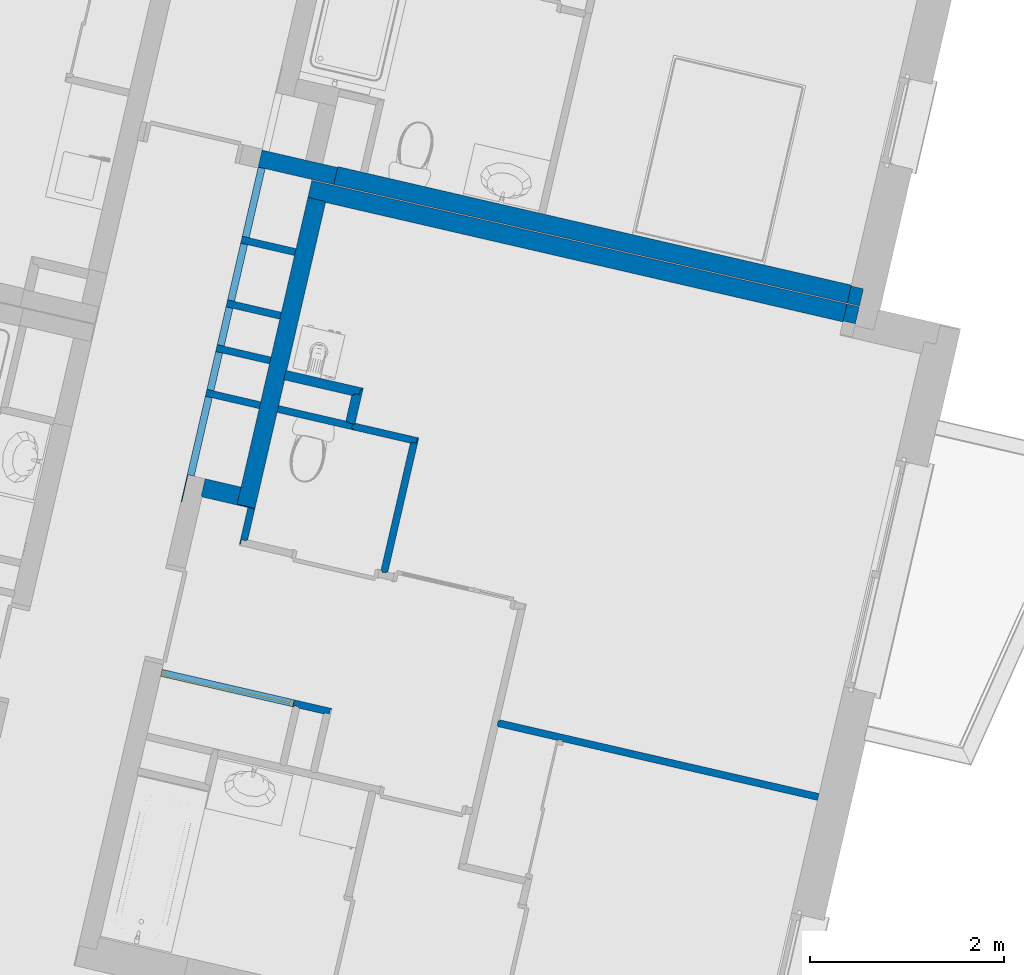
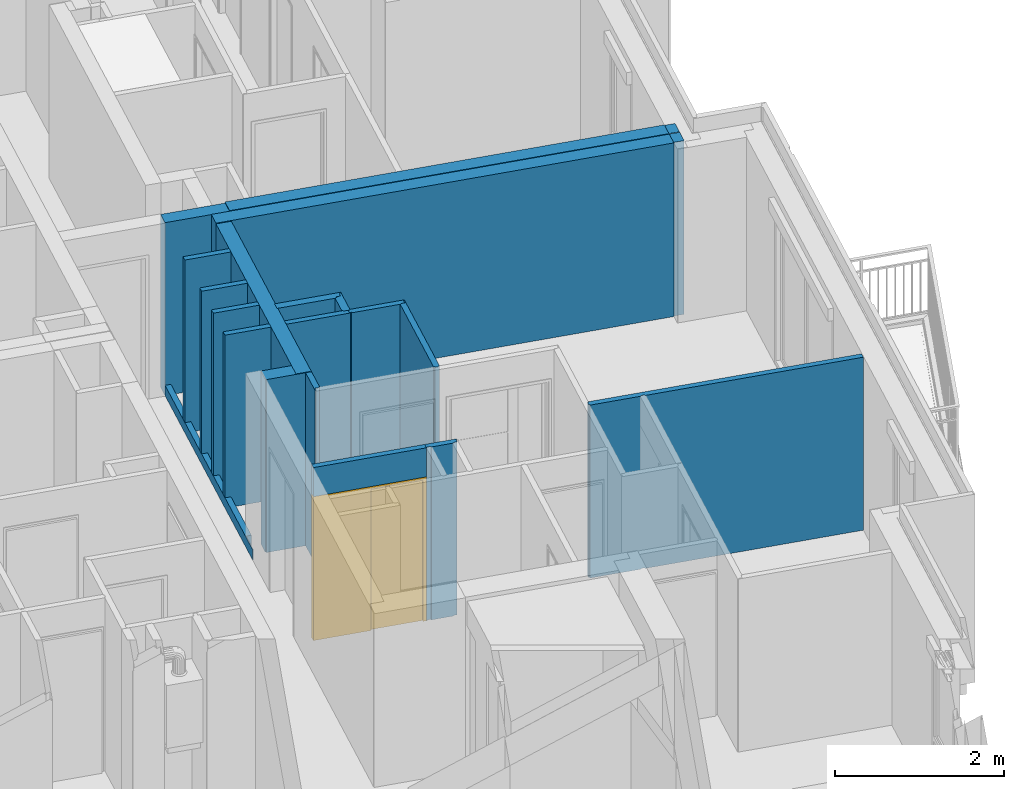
# One storey, part 45 of 91: 21 walls, 1 door, 1 opening.
"""IFC2X3 building model written with IfcOpenShell, lengths in metres."""

from ifc_helpers import new_model, entity, si_unit, converted_unit, derived_unit, money_unit, direction, frame, origin_with_axes, place, context, subcontext, project, spatial, faceted_brep, material, material_list, type_object, element, fill, save


model = new_model("IFC2X3")

# Units and contexts
model_context = context("Model", 3, precision=1e-05, world=origin_with_axes(), true_north=direction((0.0, 1.0)))
body_context = subcontext(model_context, "Body", "Model", "MODEL_VIEW")
ifc_project = project(units=[si_unit("LENGTHUNIT", "METRE"), si_unit("AREAUNIT", "SQUARE_METRE"), si_unit("VOLUMEUNIT", "CUBIC_METRE"), converted_unit("PLANEANGLEUNIT", "DEGREE", entity("IfcPlaneAngleMeasure", 0.0174532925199), si_unit("PLANEANGLEUNIT", "RADIAN"), dimensions=[0, 0, 0, 0, 0, 0, 0]), si_unit("SOLIDANGLEUNIT", "STERADIAN"), money_unit("EUR"), converted_unit("TIMEUNIT", "Year", entity("IfcTimeMeasure", 31556926.0), si_unit("TIMEUNIT", "SECOND"), dimensions=[0, 0, 1, 0, 0, 0, 0]), si_unit("MASSUNIT", "GRAM", prefix="KILO"), si_unit("THERMODYNAMICTEMPERATUREUNIT", "DEGREE_CELSIUS"), si_unit("LUMINOUSINTENSITYUNIT", "LUMEN"), si_unit("ENERGYUNIT", "JOULE", prefix="MEGA"), derived_unit("THERMALCONDUCTANCEUNIT", [(si_unit("POWERUNIT", "WATT"), 1), (si_unit("LENGTHUNIT", "METRE"), -1), (si_unit("THERMODYNAMICTEMPERATUREUNIT", "KELVIN"), -1)]), derived_unit("SPECIFICHEATCAPACITYUNIT", [(si_unit("ENERGYUNIT", "JOULE"), 1), (si_unit("MASSUNIT", "GRAM", prefix="KILO"), -1), (si_unit("THERMODYNAMICTEMPERATUREUNIT", "KELVIN"), -1)]), derived_unit("MASSDENSITYUNIT", [(si_unit("MASSUNIT", "GRAM", prefix="KILO"), 1), (si_unit("VOLUMEUNIT", "CUBIC_METRE"), -1)])], contexts=[model_context])

# Site, building, storey
site_placement = place(None, origin_with_axes())
site = spatial("IfcSite", under=ifc_project, at=site_placement, Name="Site", CompositionType="ELEMENT")
building_placement = place(site_placement, origin_with_axes())
building = spatial("IfcBuilding", under=site, at=building_placement, Name="Bâtiment", CompositionType="ELEMENT")
storey_placement = place(building_placement, frame((0.0, 0.0, 5.44), z_axis=(0.0, 0.0, 1.0), x_axis=(1.0, 0.0, 0.0)))
storey = spatial("IfcBuildingStorey", under=building, at=storey_placement, Name="R+2", CompositionType="ELEMENT", Elevation=5.44)

# Walls
ifc_material_1 = material(Name="Cloison - Carreaux de plâtre")
wall_type_1 = type_object("IfcWallType", Name="Cloison - Carreaux de plâtre 74", PredefinedType="USERDEFINED")
wall_1_placement = place(storey_placement, frame((-9.20392746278, 0.883172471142, 0.0), z_axis=(0.0, 0.0, 1.0), x_axis=(0.224876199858, 0.974387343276, 0.0)))
element("IfcWall", 1, at=wall_1_placement, inside=storey, type_object=wall_type_1, material=ifc_material_1, Name="Carreaux de plâtre 8cm", ObjectType="PARTITIONING", context=body_context, shape_type="Brep", body=[
    faceted_brep([(3.25805722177, 0.0, 0.15), (-0.29, 0.0, 0.15), (-0.29, -0.00999999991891, 0.15), (0.0, -0.00999999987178, 0.15), (0.0, -0.074, 0.15), (3.25805722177, -0.074, 0.15), (3.25805722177, 0.0, 0.0), (-0.29, 0.0, 0.0), (-0.29, -0.00999999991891, 0.0), (0.0, -0.00999999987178, 0.0), (0.0, -0.074, 0.0), (3.25805722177, -0.074, 0.0)], [[[0, 1, 2, 3, 4, 5]], [[0, 6, 7, 1]], [[1, 7, 8, 2]], [[8, 9, 3, 2]], [[3, 9, 10, 4]], [[11, 5, 4, 10]], [[5, 11, 6, 0]], [[11, 10, 9, 8, 7, 6]]]),
])
wall_2_placement = place(storey_placement, frame((-8.78745674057, 2.6877378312, 0.0), z_axis=(0.0, 0.0, 1.0), x_axis=(0.974387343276, -0.224876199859, 0.0)))
element("IfcWall", 2, at=wall_2_placement, inside=storey, type_object=wall_type_1, material=ifc_material_1, Name="Carreaux de plâtre 8cm", ObjectType="PARTITIONING", context=body_context, shape_type="Brep", body=[
    faceted_brep([(0.570000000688, 0.0, 0.0), (0.0739999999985, 0.0, 0.0), (0.0739999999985, 0.0, 0.15), (0.0, 0.0, 0.15), (0.0, 0.0, 2.5), (0.570000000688, 0.0, 2.5), (0.570000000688, -0.074, 0.0), (0.0739999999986, -0.074, 0.0), (0.0739999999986, -0.074, 0.15), (0.0, -0.074, 0.15), (0.0, -0.074, 2.5), (0.570000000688, -0.074, 2.5)], [[[0, 1, 2, 3, 4, 5]], [[0, 6, 7, 1]], [[7, 8, 2, 1]], [[8, 9, 3, 2]], [[10, 4, 3, 9]], [[10, 11, 5, 4]], [[11, 6, 0, 5]], [[10, 9, 8, 7, 6, 11]]]),
])
wall_3_placement = place(storey_placement, frame((-8.63589018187, 3.34447490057, 0.0), z_axis=(0.0, 0.0, 1.0), x_axis=(0.974387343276, -0.224876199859, 0.0)))
element("IfcWall", 3, at=wall_3_placement, inside=storey, type_object=wall_type_1, material=ifc_material_1, Name="Carreaux de plâtre 8cm", ObjectType="PARTITIONING", context=body_context, shape_type="Brep", body=[
    faceted_brep([(0.570000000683, 0.0, 0.0), (0.0739999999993, 0.0, 0.0), (0.0739999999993, 0.0, 0.15), (0.0, 0.0, 0.15), (0.0, 0.0, 2.5), (0.570000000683, 0.0, 2.5), (0.570000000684, -0.074, 0.0), (0.0739999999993, -0.074, 0.0), (0.0739999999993, -0.074, 0.15), (0.0, -0.074, 0.15), (0.0, -0.074, 2.5), (0.570000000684, -0.074, 2.5)], [[[0, 1, 2, 3, 4, 5]], [[0, 6, 7, 1]], [[7, 8, 2, 1]], [[8, 9, 3, 2]], [[10, 4, 3, 9]], [[10, 11, 5, 4]], [[11, 6, 0, 5]], [[10, 9, 8, 7, 6, 11]]]),
])
wall_4_placement = place(storey_placement, frame((-9.00063937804, 1.76401862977, 0.0), z_axis=(0.0, 0.0, 1.0), x_axis=(0.974387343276, -0.224876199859, 0.0)))
element("IfcWall", 4, at=wall_4_placement, inside=storey, type_object=wall_type_1, material=ifc_material_1, Name="Carreaux de plâtre 8cm", ObjectType="PARTITIONING", context=body_context, shape_type="Brep", body=[
    faceted_brep([(0.570000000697, 0.0, 0.0), (0.0740000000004, 0.0, 0.0), (0.0740000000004, 0.0, 0.15), (0.0, 0.0, 0.15), (0.0, 0.0, 2.5), (0.570000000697, 0.0, 2.5), (0.570000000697, -0.074, 0.0), (0.0740000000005, -0.074, 0.0), (0.0740000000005, -0.074, 0.15), (0.0, -0.074, 0.15), (0.0, -0.074, 2.5), (0.570000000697, -0.074, 2.5)], [[[0, 1, 2, 3, 4, 5]], [[0, 6, 7, 1]], [[7, 8, 2, 1]], [[8, 9, 3, 2]], [[10, 4, 3, 9]], [[10, 11, 5, 4]], [[11, 6, 0, 5]], [[10, 9, 8, 7, 6, 11]]]),
])
wall_5_placement = place(storey_placement, frame((-8.89404805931, 2.22587823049, 0.0), z_axis=(0.0, 0.0, 1.0), x_axis=(0.974387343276, -0.224876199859, 0.0)))
element("IfcWall", 5, at=wall_5_placement, inside=storey, type_object=wall_type_1, material=ifc_material_1, Name="Carreaux de plâtre 8cm", ObjectType="PARTITIONING", context=body_context, shape_type="Brep", body=[
    faceted_brep([(0.570000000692, 0.0, 0.0), (0.0739999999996, 0.0, 0.0), (0.0739999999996, 0.0, 0.15), (0.0, 0.0, 0.15), (0.0, 0.0, 2.5), (0.570000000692, 0.0, 2.5), (0.570000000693, -0.074, 0.0), (0.0739999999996, -0.074, 0.0), (0.0739999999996, -0.074, 0.15), (0.0, -0.074, 0.15), (0.0, -0.074, 2.5), (0.570000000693, -0.074, 2.5)], [[[0, 1, 2, 3, 4, 5]], [[0, 6, 7, 1]], [[7, 8, 2, 1]], [[8, 9, 3, 2]], [[10, 4, 3, 9]], [[10, 11, 5, 4]], [[11, 6, 0, 5]], [[10, 9, 8, 7, 6, 11]]]),
])
ifc_material_2 = material(Name="Finition int - Plaque de plâtre")
ifc_material_3 = material(Name="Isolation - Laine de roche")
ifc_material_list_1 = material_list([ifc_material_2, ifc_material_3, ifc_material_2])
wall_type_2 = type_object("IfcWallType", Name="3 - Cloison 72mm Placostil 74", PredefinedType="USERDEFINED")
wall_6_placement = place(storey_placement, frame((-7.71045196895, -1.53049506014, 0.0), z_axis=(0.0, 0.0, 1.0), x_axis=(-0.974387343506, 0.224876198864, 0.0)))
element("IfcWall", 6, at=wall_6_placement, inside=storey, type_object=wall_type_2, material=ifc_material_list_1, Name="Cloison Placostil 72/48", ObjectType="PARTITIONING", context=body_context, shape_type="Brep", body=[
    faceted_brep([(0.385000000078, 0.074, 0.0), (0.397999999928, 0.074, 0.0), (0.397999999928, 0.061, 0.0), (0.385000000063, 0.061, 0.0), (0.385000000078, 0.074, 2.5), (0.397999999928, 0.074, 2.5), (0.397999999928, 0.061, 2.5), (0.385000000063, 0.061, 2.5)], [[[0, 1, 2, 3]], [[4, 5, 1, 0]], [[2, 1, 5, 6]], [[3, 2, 6, 7]], [[4, 0, 3, 7]], [[7, 6, 5, 4]]]),
    faceted_brep([(0.337000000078, 0.074, 0.0), (0.337000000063, 0.061, 0.0), (0.061000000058, 0.061, 0.0), (0.0610000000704, 0.074, 0.0), (0.337000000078, 0.074, 2.5), (0.337000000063, 0.061, 2.5), (0.061000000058, 0.061, 2.5), (0.0610000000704, 0.074, 2.5)], [[[0, 1, 2, 3]], [[1, 0, 4, 5]], [[1, 5, 6, 2]], [[7, 3, 2, 6]], [[4, 0, 3, 7]], [[5, 4, 7, 6]]]),
    faceted_brep([(0.013000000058, 0.061, 0.0), (0.397999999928, 0.061, 0.0), (0.397999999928, 0.013, 0.0), (0.0130000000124, 0.013, 0.0), (0.013000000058, 0.061, 2.5), (0.397999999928, 0.061, 2.5), (0.397999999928, 0.013, 2.5), (0.0130000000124, 0.013, 2.5)], [[[0, 1, 2, 3]], [[4, 5, 1, 0]], [[2, 1, 5, 6]], [[3, 2, 6, 7]], [[4, 0, 3, 7]], [[7, 6, 5, 4]]]),
    faceted_brep([(0.0, 0.013, 0.0), (0.397999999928, 0.013, 0.0), (0.397999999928, 0.0, 0.0), (0.0, 0.0, 0.0), (0.0, 0.013, 2.5), (0.397999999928, 0.013, 2.5), (0.397999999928, 0.0, 2.5), (0.0, 0.0, 2.5)], [[[0, 1, 2, 3]], [[4, 5, 1, 0]], [[2, 1, 5, 6]], [[3, 2, 6, 7]], [[4, 0, 3, 7]], [[7, 6, 5, 4]]]),
])
wall_7_placement = place(storey_placement, frame((-6.81321467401, 1.26329398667, 0.0), z_axis=(0.0, 0.0, 1.0), x_axis=(-0.974387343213, 0.224876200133, 0.0)))
element("IfcWall", 7, at=wall_7_placement, inside=storey, type_object=wall_type_2, material=ifc_material_list_1, Name="Cloison Placostil 72/48", ObjectType="PARTITIONING", context=body_context, shape_type="Brep", body=[
    faceted_brep([(0.0609999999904, 0.061, 0.0), (0.673999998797, 0.061, 0.0), (0.673999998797, 0.061, 2.5), (0.0609999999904, 0.061, 2.5), (0.0609999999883, 0.074, 0.0), (0.673999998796, 0.074, 0.0), (0.673999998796, 0.074, 2.5), (0.0609999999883, 0.074, 2.5)], [[[0, 1, 2, 3]], [[4, 5, 1, 0]], [[5, 6, 2, 1]], [[3, 2, 6, 7]], [[7, 4, 0, 3]], [[7, 6, 5, 4]]]),
    faceted_brep([(0.012999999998, 0.013, 0.0), (0.699999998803, 0.013, 0.0), (0.699999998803, 0.013, 2.5), (0.012999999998, 0.013, 2.5), (0.0129999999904, 0.061, 0.0), (0.699999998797, 0.061, 0.0), (0.699999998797, 0.061, 2.5), (0.0129999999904, 0.061, 2.5)], [[[0, 1, 2, 3]], [[4, 5, 1, 0]], [[5, 6, 2, 1]], [[3, 2, 6, 7]], [[7, 4, 0, 3]], [[7, 6, 5, 4]]]),
    faceted_brep([(0.0, 0.0, 0.0), (0.673999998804, 0.0, 0.0), (0.673999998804, 0.0, 2.5), (0.0, 0.0, 2.5), (0.0, 0.013, 0.0), (0.673999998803, 0.013, 0.0), (0.673999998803, 0.013, 2.5), (0.0, 0.013, 2.5)], [[[0, 1, 2, 3]], [[4, 5, 1, 0]], [[5, 6, 2, 1]], [[3, 2, 6, 7]], [[7, 4, 0, 3]], [[7, 6, 5, 4]]]),
])
wall_8_placement = place(storey_placement, frame((-7.1500792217, -0.196338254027, 0.0), z_axis=(0.0, 0.0, 1.0), x_axis=(0.224876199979, 0.974387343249, 0.0)))
element("IfcWall", 8, at=wall_8_placement, inside=storey, type_object=wall_type_2, material=ifc_material_list_1, Name="Cloison Placostil 72/48", ObjectType="PARTITIONING", context=body_context, shape_type="Brep", body=[
    faceted_brep([(1.42400000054, 0.074, 0.0), (1.42400000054, 0.061, 0.0), (0.0740000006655, 0.061, 0.0), (0.0740000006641, 0.074, 0.0), (1.42400000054, 0.074, 2.5), (1.42400000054, 0.061, 2.5), (0.0740000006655, 0.061, 2.5), (0.0740000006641, 0.074, 2.5)], [[[0, 1, 2, 3]], [[1, 0, 4, 5]], [[1, 5, 6, 2]], [[7, 3, 2, 6]], [[4, 0, 3, 7]], [[5, 4, 7, 6]]]),
    faceted_brep([(1.43700000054, 0.061, 0.0), (1.43700000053, 0.013, 0.0), (0.0610000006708, 0.013, 0.0), (0.0610000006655, 0.061, 0.0), (1.43700000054, 0.061, 2.5), (1.43700000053, 0.013, 2.5), (0.0610000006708, 0.013, 2.5), (0.0610000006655, 0.061, 2.5)], [[[0, 1, 2, 3]], [[1, 0, 4, 5]], [[1, 5, 6, 2]], [[7, 3, 2, 6]], [[4, 0, 3, 7]], [[5, 4, 7, 6]]]),
    faceted_brep([(1.48500000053, 0.013, 0.0), (1.48500000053, 0.0, 0.0), (0.0740000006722, 0.0, 0.0), (0.0740000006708, 0.013, 0.0), (1.48500000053, 0.013, 2.5), (1.48500000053, 0.0, 2.5), (0.0740000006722, 0.0, 2.5), (0.0740000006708, 0.013, 2.5)], [[[0, 1, 2, 3]], [[1, 0, 4, 5]], [[1, 5, 6, 2]], [[7, 3, 2, 6]], [[4, 0, 3, 7]], [[5, 4, 7, 6]]]),
])
wall_9_placement = place(storey_placement, frame((-6.0515304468, -1.63009812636, 0.0), z_axis=(0.0, 0.0, 1.0), x_axis=(0.974387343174, -0.224876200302, 0.0)))
element("IfcWall", 9, at=wall_9_placement, inside=storey, type_object=wall_type_2, material=ifc_material_list_1, Name="Cloison Placostil 72/48", ObjectType="PARTITIONING", context=body_context, shape_type="Brep", body=[
    faceted_brep([(0.073999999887, -0.013, 2.5), (3.45816951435, -0.013, 2.5), (3.45816951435, 0.0, 2.5), (0.0739999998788, 0.0, 2.5), (0.073999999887, -0.013, 0.0), (3.45816951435, -0.013, 0.0), (3.45816951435, 0.0, 0.0), (0.0739999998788, 0.0, 0.0)], [[[0, 1, 2, 3]], [[4, 5, 1, 0]], [[2, 1, 5, 6]], [[3, 2, 6, 7]], [[4, 0, 3, 7]], [[7, 6, 5, 4]]]),
    faceted_brep([(0.0609999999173, -0.061, 2.5), (3.45816951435, -0.061, 2.5), (3.45816951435, -0.013, 2.5), (0.060999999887, -0.013, 2.5), (0.0609999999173, -0.061, 0.0), (3.45816951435, -0.061, 0.0), (3.45816951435, -0.013, 0.0), (0.060999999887, -0.013, 0.0)], [[[0, 1, 2, 3]], [[4, 5, 1, 0]], [[2, 1, 5, 6]], [[3, 2, 6, 7]], [[4, 0, 3, 7]], [[7, 6, 5, 4]]]),
    faceted_brep([(0.706999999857, -0.074, 2.5), (0.706999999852, -0.061, 2.5), (0.0739999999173, -0.061, 2.5), (0.0739999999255, -0.074, 2.5), (0.706999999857, -0.074, 0.0), (0.706999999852, -0.061, 0.0), (0.0739999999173, -0.061, 0.0), (0.0739999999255, -0.074, 0.0)], [[[0, 1, 2, 3]], [[1, 0, 4, 5]], [[1, 5, 6, 2]], [[7, 3, 2, 6]], [[4, 0, 3, 7]], [[5, 4, 7, 6]]]),
    faceted_brep([(0.754999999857, -0.074, 2.5), (3.45816951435, -0.074, 2.5), (3.45816951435, -0.061, 2.5), (0.754999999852, -0.061, 2.5), (0.754999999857, -0.074, 0.0), (3.45816951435, -0.074, 0.0), (3.45816951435, -0.061, 0.0), (0.754999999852, -0.061, 0.0)], [[[0, 1, 2, 3]], [[4, 5, 1, 0]], [[2, 1, 5, 6]], [[3, 2, 6, 7]], [[4, 0, 3, 7]], [[7, 6, 5, 4]]]),
])

# Wall, opening, door
wall_10_placement = place(storey_placement, frame((-8.09825813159, -1.44099433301, 0.0), z_axis=(0.0, 0.0, 1.0), x_axis=(-0.974387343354, 0.224876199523, 0.0)))
wall_10 = element("IfcWall", 10, at=wall_10_placement, inside=storey, type_object=wall_type_2, material=ifc_material_list_1, Name="Cloison Placostil 72/48", ObjectType="PARTITIONING", context=body_context, shape_type="Brep", body=[
    faceted_brep([(0.0, 0.074, 2.08), (0.0, 0.061, 2.08), (0.0, 0.061, 2.5), (0.0, 0.074, 2.5), (1.40000000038, 0.061, 2.08), (1.40000000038, 0.074, 2.08), (1.40000000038, 0.061, 2.5), (1.40000000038, 0.074, 2.5)], [[[0, 1, 2, 3]], [[4, 1, 0, 5]], [[1, 4, 6, 2]], [[6, 7, 3, 2]], [[5, 0, 3, 7]], [[4, 5, 7, 6]]]),
    faceted_brep([(0.0, 0.061, 2.08), (0.0, 0.013, 2.08), (0.0, 0.013, 2.5), (0.0, 0.061, 2.5), (1.40000000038, 0.013, 2.08), (1.40000000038, 0.061, 2.08), (1.40000000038, 0.013, 2.5), (1.40000000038, 0.061, 2.5)], [[[0, 1, 2, 3]], [[4, 1, 0, 5]], [[1, 4, 6, 2]], [[6, 7, 3, 2]], [[5, 0, 3, 7]], [[4, 5, 7, 6]]]),
    faceted_brep([(0.0, 0.013, 2.08), (0.0, 0.0, 2.08), (0.0, 0.0, 2.5), (0.0, 0.013, 2.5), (1.40000000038, 0.0, 2.08), (1.40000000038, 0.013, 2.08), (1.40000000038, 0.0, 2.5), (1.40000000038, 0.013, 2.5)], [[[0, 1, 2, 3]], [[4, 1, 0, 5]], [[1, 4, 6, 2]], [[6, 7, 3, 2]], [[5, 0, 3, 7]], [[4, 5, 7, 6]]]),
])
opening_placement = place(wall_10_placement, frame((0.700000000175, 0.0, 0.0), z_axis=(0.0, 0.0, 1.0), x_axis=(1.0, 0.0, 0.0)))
opening = element("IfcOpeningElement", 11, at=opening_placement, cuts=wall_10, Name="Por-002", context=body_context, shape_type="Brep", body=[
    faceted_brep([(0.7000000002, -0.074, 0.0), (-0.7000000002, -0.074, 0.0), (-0.7000000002, 0.074, 0.0), (0.7000000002, 0.074, 0.0), (0.7000000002, -0.074, 2.08), (-0.7000000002, -0.074, 2.08), (-0.7000000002, 0.074, 2.08), (0.7000000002, 0.074, 2.08)], [[[0, 1, 2, 3]], [[0, 4, 5, 1]], [[1, 5, 6, 2]], [[3, 2, 6, 7]], [[4, 0, 3, 7]], [[5, 4, 7, 6]]]),
])
door_style = type_object("IfcDoorStyle", Name="Porte int générique 2019", ConstructionType="NOTDEFINED", OperationType="USERDEFINED", ParameterTakesPrecedence=False, Sizeable=False)
door_placement = place(opening_placement, frame((-0.6600000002, 0.0, 0.0), z_axis=(0.0, 0.0, 1.0), x_axis=(1.0, 0.0, 0.0)))
door = element("IfcDoor", 12, at=door_placement, inside=storey, type_object=door_style, Name="Por-002", ObjectType="DOOR", OverallHeight=2.04, OverallWidth=1.32, context=body_context, shape_type="Brep", body=[
    faceted_brep([(1.3600000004, 0.074, 0.0), (1.3200000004, 0.074, 0.0), (1.3200000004, 0.074, 2.04), (0.0, 0.074, 2.04), (0.0, 0.074, 0.0), (-0.04, 0.074, 0.0), (-0.04, 0.074, 2.08), (1.3600000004, 0.074, 2.08), (1.3600000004, 0.0, 0.0), (1.3200000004, 0.0, 0.0), (1.3200000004, 0.0, 2.04), (0.0, 0.0, 2.04), (0.0, 0.0, 0.0), (-0.04, 0.0, 0.0), (-0.04, 0.0, 2.08), (1.3600000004, 0.0, 2.08)], [[[0, 1, 2, 3, 4, 5, 6, 7]], [[0, 8, 9, 1]], [[1, 9, 10, 2]], [[2, 10, 11, 3]], [[3, 11, 12, 4]], [[5, 4, 12, 13]], [[14, 6, 5, 13]], [[15, 7, 6, 14]], [[8, 0, 7, 15]], [[9, 8, 15, 14, 13, 12, 11, 10]]]),
    faceted_brep([(1.3200000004, 0.074, 0.0), (1.3200000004, 0.054, 0.0), (0.6450000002, 0.054, 0.0), (0.6450000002, 0.074, 0.0), (1.3200000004, 0.074, 2.04), (1.3200000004, 0.054, 2.04), (0.6450000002, 0.054, 2.04), (0.6450000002, 0.074, 2.04)], [[[0, 1, 2, 3]], [[4, 5, 1, 0]], [[1, 5, 6, 2]], [[3, 2, 6, 7]], [[0, 3, 7, 4]], [[7, 6, 5, 4]]]),
    faceted_brep([(0.6750000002, 0.054, 0.0), (0.6750000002, 0.034, 0.0), (0.0, 0.034, 0.0), (0.0, 0.054, 0.0), (0.6750000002, 0.054, 2.04), (0.6750000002, 0.034, 2.04), (0.0, 0.034, 2.04), (0.0, 0.054, 2.04)], [[[0, 1, 2, 3]], [[4, 5, 1, 0]], [[1, 5, 6, 2]], [[3, 2, 6, 7]], [[0, 3, 7, 4]], [[7, 6, 5, 4]]]),
])
fill(opening, door)

# Walls
wall_11_placement = place(storey_placement, frame((-8.50611955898, 0.527132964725, 0.0), z_axis=(0.0, 0.0, 1.0), x_axis=(-0.224876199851, -0.974387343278, 0.0)))
element("IfcWall", 13, at=wall_11_placement, inside=storey, type_object=wall_type_2, material=ifc_material_list_1, Name="Cloison Placostil 72/48", ObjectType="PARTITIONING", context=body_context, shape_type="Brep", body=[
    faceted_brep([(0.32600000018, -0.013, 2.5), (0.326000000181, 0.0, 2.5), (0.0, 0.0, 2.5), (0.0, -0.013, 2.5), (0.32600000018, -0.013, 0.0), (0.326000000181, 0.0, 0.0), (0.0, 0.0, 0.0), (0.0, -0.013, 0.0)], [[[0, 1, 2, 3]], [[1, 0, 4, 5]], [[1, 5, 6, 2]], [[7, 3, 2, 6]], [[4, 0, 3, 7]], [[5, 4, 7, 6]]]),
    faceted_brep([(0.339000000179, -0.061, 2.5), (0.33900000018, -0.013, 2.5), (0.0, -0.013, 2.5), (0.0, -0.061, 2.5), (0.339000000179, -0.061, 0.0), (0.33900000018, -0.013, 0.0), (0.0, -0.013, 0.0), (0.0, -0.061, 0.0)], [[[0, 1, 2, 3]], [[1, 0, 4, 5]], [[1, 5, 6, 2]], [[7, 3, 2, 6]], [[4, 0, 3, 7]], [[5, 4, 7, 6]]]),
    faceted_brep([(0.387000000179, -0.074, 2.5), (0.387000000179, -0.061, 2.5), (0.0, -0.061, 2.5), (0.0, -0.074, 2.5), (0.387000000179, -0.074, 0.0), (0.387000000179, -0.061, 0.0), (0.0, -0.061, 0.0), (0.0, -0.074, 0.0)], [[[0, 1, 2, 3]], [[1, 0, 4, 5]], [[1, 5, 6, 2]], [[7, 3, 2, 6]], [[4, 0, 3, 7]], [[5, 4, 7, 6]]]),
])
wall_type_3 = type_object("IfcWallType", Name="3 - Cloison Gaine Technique 72mm 74", PredefinedType="USERDEFINED")
wall_12_placement = place(storey_placement, frame((-7.46995174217, 1.41486054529, 0.0), z_axis=(0.0, 0.0, 1.0), x_axis=(-0.974387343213, 0.224876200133, 0.0)))
element("IfcWall", 14, at=wall_12_placement, inside=storey, type_object=wall_type_3, material=ifc_material_list_1, Name="Cloison Placostil 72/48", ObjectType="PARTITIONING", context=body_context, shape_type="Brep", body=[
    faceted_brep([(0.0129999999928, 0.061, 0.0), (0.0129999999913, 0.074, 0.0), (0.810000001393, 0.074, 0.0), (0.810000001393, 0.061, 0.0), (0.0129999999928, 0.061, 2.5), (0.0129999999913, 0.074, 2.5), (0.810000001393, 0.074, 2.5), (0.810000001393, 0.061, 2.5)], [[[0, 1, 2, 3]], [[4, 5, 1, 0]], [[1, 5, 6, 2]], [[7, 3, 2, 6]], [[4, 0, 3, 7]], [[5, 4, 7, 6]]]),
    faceted_brep([(0.0259999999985, 0.013, 0.0), (0.0259999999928, 0.061, 0.0), (0.810000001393, 0.061, 0.0), (0.810000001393, 0.013, 0.0), (0.0259999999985, 0.013, 2.5), (0.0259999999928, 0.061, 2.5), (0.810000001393, 0.061, 2.5), (0.810000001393, 0.013, 2.5)], [[[0, 1, 2, 3]], [[4, 5, 1, 0]], [[1, 5, 6, 2]], [[7, 3, 2, 6]], [[4, 0, 3, 7]], [[5, 4, 7, 6]]]),
    faceted_brep([(0.0869999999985, 0.013, 0.0), (0.810000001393, 0.013, 0.0), (0.810000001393, 0.0, 0.0), (0.087, 0.0, 0.0), (0.0869999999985, 0.013, 2.5), (0.810000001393, 0.013, 2.5), (0.810000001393, 0.0, 2.5), (0.087, 0.0, 2.5)], [[[0, 1, 2, 3]], [[4, 5, 1, 0]], [[2, 1, 5, 6]], [[3, 2, 6, 7]], [[4, 0, 3, 7]], [[7, 6, 5, 4]]]),
])
ifc_material_4 = material(Name="Finition int - Enduit plâtre")
ifc_material_5 = material(Name="Béton")
ifc_material_list_2 = material_list([ifc_material_4, ifc_material_5])
wall_type_4 = type_object("IfcWallType", Name="2 - Murs Béton 18 + Enduit 1 Face 190", PredefinedType="USERDEFINED")
wall_13_placement = place(storey_placement, frame((-7.91811591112, 3.91985888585, 0.0), z_axis=(0.0, 0.0, 1.0), x_axis=(-0.224876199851, -0.974387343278, 0.0)))
element("IfcWall", 15, at=wall_13_placement, inside=storey, type_object=wall_type_4, material=ifc_material_list_2, Name="M_Ext-008", ObjectType="SOLIDWALL", context=body_context, shape_type="Brep", body=[
    faceted_brep([(1.97000000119, 0.19, 0.0), (1.9700000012, 0.18, 0.0), (0.190000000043, 0.18, 0.0), (0.190000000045, 0.19, 0.0), (1.97000000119, 0.19, 2.5), (1.9700000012, 0.18, 2.5), (0.190000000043, 0.18, 2.5), (0.190000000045, 0.19, 2.5)], [[[0, 1, 2, 3]], [[1, 0, 4, 5]], [[1, 5, 6, 2]], [[7, 3, 2, 6]], [[4, 0, 3, 7]], [[5, 4, 7, 6]]]),
    faceted_brep([(3.43805722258, 0.19, 0.0), (3.4380572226, 0.18, 0.0), (2.0700000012, 0.18, 0.0), (2.07000000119, 0.19, 0.0), (3.43805722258, 0.19, 2.5), (3.4380572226, 0.18, 2.5), (2.0700000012, 0.18, 2.5), (2.07000000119, 0.19, 2.5)], [[[0, 1, 2, 3]], [[1, 0, 4, 5]], [[1, 5, 6, 2]], [[7, 3, 2, 6]], [[4, 0, 3, 7]], [[5, 4, 7, 6]]]),
    faceted_brep([(3.4280572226, 0.18, 0.0), (3.4280572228, 0.0, 0.0), (0.18, 0.0, 0.0), (0.180000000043, 0.18, 0.0), (3.4280572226, 0.18, 2.5), (3.4280572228, 0.0, 2.5), (0.18, 0.0, 2.5), (0.180000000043, 0.18, 2.5)], [[[0, 1, 2, 3]], [[1, 0, 4, 5]], [[1, 5, 6, 2]], [[7, 3, 2, 6]], [[4, 0, 3, 7]], [[5, 4, 7, 6]]]),
])
wall_14_placement = place(storey_placement, frame((-8.64852667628, 0.754993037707, 0.0), z_axis=(0.0, 0.0, 1.0), x_axis=(-0.974387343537, 0.224876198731, 0.0)))
element("IfcWall", 16, at=wall_14_placement, inside=storey, type_object=wall_type_4, material=ifc_material_list_2, Name="M_Ext-008", ObjectType="SOLIDWALL", context=body_context, shape_type="Brep", body=[
    faceted_brep([(-0.179999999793, 0.18, 0.0), (0.37000000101, 0.18, 0.0), (0.37000000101, 0.18, 2.5), (-0.179999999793, 0.18, 2.5), (-0.179999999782, 0.19, 0.0), (0.37000000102, 0.19, 0.0), (0.37000000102, 0.19, 2.5), (-0.179999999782, 0.19, 2.5)], [[[0, 1, 2, 3]], [[4, 5, 1, 0]], [[2, 1, 5, 6]], [[3, 2, 6, 7]], [[4, 0, 3, 7]], [[6, 5, 4, 7]]]),
    faceted_brep([(0.0, 0.0, 0.0), (0.380000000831, 0.0, 0.0), (0.380000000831, 0.0, 2.5), (0.0, 0.0, 2.5), (2.06908268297e-10, 0.18, 0.0), (0.38000000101, 0.18, 0.0), (0.38000000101, 0.18, 2.5), (2.06908268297e-10, 0.18, 2.5)], [[[0, 1, 2, 3]], [[4, 5, 1, 0]], [[2, 1, 5, 6]], [[3, 2, 6, 7]], [[4, 0, 3, 7]], [[6, 5, 4, 7]]]),
])
ifc_material_list_3 = material_list([ifc_material_5, ifc_material_4])
wall_15_placement = place(storey_placement, frame((-7.91811591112, 3.91985888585, 0.0), z_axis=(0.0, 0.0, 1.0), x_axis=(0.974387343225, -0.224876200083, 0.0)))
element("IfcWall", 17, at=wall_15_placement, inside=storey, type_object=wall_type_4, material=ifc_material_list_3, Name="M_Ext-009", ObjectType="SOLIDWALL", context=body_context, shape_type="Brep", body=[
    faceted_brep([(5.66919133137, 0.0, 0.0), (0.0, 0.0, 0.0), (0.0, 0.0, 2.5), (0.0, 0.0, 2.5099999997), (5.66919133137, 0.0, 2.51), (5.66919133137, -0.18, 0.0), (0.0, -0.18, 0.0), (0.0, -0.18, 2.5), (0.0, -0.18, 2.5099999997), (5.66919133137, -0.18, 2.51)], [[[0, 1, 2, 3, 4]], [[5, 6, 1, 0]], [[6, 7, 2, 1]], [[3, 2, 7, 8]], [[4, 3, 8, 9]], [[0, 4, 9, 5]], [[8, 7, 6, 5, 9]]]),
    faceted_brep([(0.180000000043, -0.18, 0.0), (0.180000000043, -0.18, 2.5), (0.0, -0.18, 2.5), (0.0, -0.18, 2.5099999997), (5.66919133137, -0.18, 2.51), (5.66919133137, -0.18, 0.0), (0.180000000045, -0.19, 2.5), (0.180000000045, -0.19, 0.0), (0.0, -0.19, 2.5), (0.0, -0.19, 2.5099999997), (5.66919133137, -0.19, 2.51), (5.66919133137, -0.19, 0.0)], [[[0, 1, 2, 3, 4, 5]], [[6, 1, 0, 7]], [[8, 2, 1, 6]], [[3, 2, 8, 9]], [[10, 4, 3, 9]], [[11, 5, 4, 10]], [[11, 7, 0, 5]], [[8, 6, 7, 11, 10, 9]]]),
])
wall_16_placement = place(storey_placement, frame((-7.69175806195, 3.87788123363, 0.0), z_axis=(0.0, 0.0, 1.0), x_axis=(0.974387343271, -0.224876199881, 0.0)))
element("IfcWall", 18, at=wall_16_placement, inside=storey, type_object=wall_type_4, material=ifc_material_list_2, Name="M_Ext-009", ObjectType="SOLIDWALL", context=body_context, shape_type="Brep", body=[
    faceted_brep([(0.0, 0.19, 0.0), (5.43919133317, 0.19, 0.0), (5.43919133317, 0.18, 0.0), (0.0, 0.18, 0.0), (0.0, 0.19, 2.51), (5.43919133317, 0.19, 2.51), (5.43919133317, 0.18, 2.51), (0.0, 0.18, 2.51)], [[[0, 1, 2, 3]], [[4, 5, 1, 0]], [[2, 1, 5, 6]], [[3, 2, 6, 7]], [[4, 0, 3, 7]], [[7, 6, 5, 4]]]),
    faceted_brep([(0.0, 0.18, 0.0), (5.43919133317, 0.18, 0.0), (5.43919133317, 0.0, 0.0), (0.0, 0.0, 0.0), (0.0, 0.18, 2.51), (5.43919133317, 0.18, 2.51), (5.43919133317, 0.0, 2.51), (0.0, 0.0, 2.51)], [[[0, 1, 2, 3]], [[4, 5, 1, 0]], [[2, 1, 5, 6]], [[3, 2, 6, 7]], [[4, 0, 3, 7]], [[7, 6, 5, 4]]]),
])
wall_type_5 = type_object("IfcWallType", Name="Béton 180", PredefinedType="USERDEFINED")
wall_17_placement = place(storey_placement, frame((-8.47126301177, 4.05778105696, 0.0), z_axis=(0.0, 0.0, 1.0), x_axis=(0.974387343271, -0.224876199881, 0.0)))
element("IfcWall", 19, at=wall_17_placement, inside=storey, type_object=wall_type_5, material=ifc_material_5, Name="M_Ext-009", ObjectType="SOLIDWALL", context=body_context, shape_type="Brep", body=[
    faceted_brep([(0.799994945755, 0.18, 2.5), (0.799994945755, 0.18, 0.0), (-5.0531243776e-06, 0.18, 0.0), (-5.05312437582e-06, 0.18, 0.15), (0.0, 0.18, 2.5), (0.799994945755, 0.0, 2.5), (0.799994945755, 0.0, 0.0), (-5.05312008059e-06, 0.0, 0.0), (-5.05312008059e-06, 0.0, 0.15), (0.0, 0.0, 2.5)], [[[0, 1, 2, 3, 4]], [[0, 5, 6, 1]], [[1, 6, 7, 2]], [[2, 7, 8, 3]], [[9, 4, 3, 8]], [[5, 0, 4, 9]], [[5, 9, 8, 7, 6]]]),
])
wall_18_placement = place(storey_placement, frame((-2.39412763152, 2.64499268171, 0.0), z_axis=(0.0, 0.0, 1.0), x_axis=(0.974387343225, -0.224876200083, 0.0)))
element("IfcWall", 20, at=wall_18_placement, inside=storey, type_object=wall_type_5, material=ifc_material_5, Name="M_Ext-009", ObjectType="SOLIDWALL", context=body_context, shape_type="Brep", body=[
    faceted_brep([(0.0, 0.0, 2.51), (0.0, -0.18, 2.51), (0.129999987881, -0.18, 2.51), (0.129999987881, 0.0, 2.51), (0.0, 0.0, 0.0), (0.0, -0.18, 0.0), (0.129999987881, -0.18, 0.0), (0.129999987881, 0.0, 0.0)], [[[0, 1, 2, 3]], [[4, 5, 1, 0]], [[1, 5, 6, 2]], [[7, 3, 2, 6]], [[4, 0, 3, 7]], [[5, 4, 7, 6]]]),
])
wall_19_placement = place(storey_placement, frame((-2.39187886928, 2.6547365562, 0.0), z_axis=(0.0, 0.0, 1.0), x_axis=(0.974387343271, -0.224876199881, 0.0)))
element("IfcWall", 21, at=wall_19_placement, inside=storey, type_object=wall_type_5, material=ifc_material_5, Name="M_Ext-009", ObjectType="SOLIDWALL", context=body_context, shape_type="Brep", body=[
    faceted_brep([(0.0, 0.0, 0.0), (0.0, 0.18, 0.0), (0.129999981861, 0.18, 0.0), (0.129999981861, 0.0, 0.0), (0.0, 0.0, 2.51), (0.0, 0.18, 2.51), (0.129999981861, 0.18, 2.51), (0.129999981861, 0.0, 2.51)], [[[0, 1, 2, 3]], [[4, 5, 1, 0]], [[1, 5, 6, 2]], [[7, 3, 2, 6]], [[4, 0, 3, 7]], [[5, 4, 7, 6]]]),
])
ifc_material_list_4 = material_list([ifc_material_2, ifc_material_2, ifc_material_3, ifc_material_2, ifc_material_2])
wall_type_6 = type_object("IfcWallType", Name="3 - Cloison Gaine Technique 98mm 100", PredefinedType="USERDEFINED")
wall_20_placement = place(storey_placement, frame((-7.3867346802, 1.77543961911, 0.0), z_axis=(0.0, 0.0, 1.0), x_axis=(-0.224876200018, -0.97438734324, 0.0)))
element("IfcWall", 22, at=wall_20_placement, inside=storey, type_object=wall_type_6, material=ifc_material_list_4, Name="Cloison 98 isolée", ObjectType="PARTITIONING", context=body_context, shape_type="Brep", body=[
    faceted_brep([(0.444057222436, 0.0, 0.0), (0.431057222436, 0.0, 0.0), (0.431057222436, 0.0, 2.5), (0.444057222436, 0.0, 2.5), (0.444057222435, -0.013, 0.0), (0.431057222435, -0.013, 0.0), (0.431057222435, -0.013, 2.5), (0.444057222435, -0.013, 2.5)], [[[0, 1, 2, 3]], [[4, 5, 1, 0]], [[5, 6, 2, 1]], [[3, 2, 6, 7]], [[0, 3, 7, 4]], [[7, 6, 5, 4]]]),
    faceted_brep([(0.0130000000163, -0.013, 2.5), (0.383057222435, -0.013, 2.5), (0.383057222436, 0.0, 2.5), (0.013, 0.0, 2.5), (0.0130000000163, -0.013, 0.0), (0.383057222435, -0.013, 0.0), (0.383057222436, 0.0, 0.0), (0.013, 0.0, 0.0)], [[[0, 1, 2, 3]], [[4, 5, 1, 0]], [[5, 6, 2, 1]], [[3, 2, 6, 7]], [[7, 4, 0, 3]], [[7, 6, 5, 4]]]),
    faceted_brep([(0.0260000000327, -0.026, 2.5), (0.383057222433, -0.026, 2.5), (0.383057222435, -0.013, 2.5), (0.0260000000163, -0.013, 2.5), (0.0260000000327, -0.026, 0.0), (0.383057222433, -0.026, 0.0), (0.383057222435, -0.013, 0.0), (0.0260000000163, -0.013, 0.0)], [[[0, 1, 2, 3]], [[4, 5, 1, 0]], [[5, 6, 2, 1]], [[3, 2, 6, 7]], [[7, 4, 0, 3]], [[7, 6, 5, 4]]]),
    faceted_brep([(0.0740000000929, -0.074, 2.5), (0.383057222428, -0.074, 2.5), (0.383057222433, -0.026, 2.5), (0.0740000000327, -0.026, 2.5), (0.0740000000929, -0.074, 0.0), (0.383057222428, -0.074, 0.0), (0.383057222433, -0.026, 0.0), (0.0740000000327, -0.026, 0.0)], [[[0, 1, 2, 3]], [[4, 5, 1, 0]], [[6, 2, 1, 5]], [[3, 2, 6, 7]], [[7, 4, 0, 3]], [[7, 6, 5, 4]]]),
    faceted_brep([(0.383057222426, -0.087, 2.5), (0.383057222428, -0.074, 2.5), (0.0870000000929, -0.074, 2.5), (0.0870000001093, -0.087, 2.5), (0.383057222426, -0.087, 0.0), (0.383057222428, -0.074, 0.0), (0.0870000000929, -0.074, 0.0), (0.0870000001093, -0.087, 0.0)], [[[0, 1, 2, 3]], [[1, 0, 4, 5]], [[1, 5, 6, 2]], [[7, 3, 2, 6]], [[4, 0, 3, 7]], [[5, 4, 7, 6]]]),
    faceted_brep([(0.370057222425, -0.1, 2.5), (0.370057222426, -0.087, 2.5), (0.100000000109, -0.087, 2.5), (0.100000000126, -0.1, 2.5), (0.370057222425, -0.1, 0.0), (0.370057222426, -0.087, 0.0), (0.100000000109, -0.087, 0.0), (0.100000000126, -0.1, 0.0)], [[[0, 1, 2, 3]], [[1, 0, 4, 5]], [[1, 5, 6, 2]], [[7, 3, 2, 6]], [[4, 0, 3, 7]], [[5, 4, 7, 6]]]),
])
wall_21_placement = place(storey_placement, frame((-8.36112202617, 2.00031581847, 0.0), z_axis=(0.0, 0.0, 1.0), x_axis=(0.974387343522, -0.224876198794, 0.0)))
element("IfcWall", 23, at=wall_21_placement, inside=storey, type_object=wall_type_6, material=ifc_material_list_4, Name="Cloison 98 isolée", ObjectType="PARTITIONING", context=body_context, shape_type="Brep", body=[
    faceted_brep([(1.00000000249, -0.013, 2.5), (1.00000000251, 0.0, 2.5), (0.180000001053, 0.0, 2.5), (0.180000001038, -0.013, 2.5), (1.00000000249, -0.013, 0.0), (1.00000000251, 0.0, 0.0), (0.180000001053, 0.0, 0.0), (0.180000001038, -0.013, 0.0)], [[[0, 1, 2, 3]], [[1, 0, 4, 5]], [[1, 5, 6, 2]], [[7, 3, 2, 6]], [[4, 0, 3, 7]], [[5, 4, 7, 6]]]),
    faceted_brep([(0.987000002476, -0.026, 2.5), (0.987000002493, -0.013, 2.5), (0.180000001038, -0.013, 2.5), (0.180000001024, -0.026, 2.5), (0.987000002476, -0.026, 0.0), (0.987000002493, -0.013, 0.0), (0.180000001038, -0.013, 0.0), (0.180000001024, -0.026, 0.0)], [[[0, 1, 2, 3]], [[1, 0, 4, 5]], [[1, 5, 6, 2]], [[7, 3, 2, 6]], [[4, 0, 3, 7]], [[5, 4, 7, 6]]]),
    faceted_brep([(0.974000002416, -0.074, 2.5), (0.974000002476, -0.026, 2.5), (0.180000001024, -0.026, 2.5), (0.180000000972, -0.074, 2.5), (0.974000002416, -0.074, 0.0), (0.974000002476, -0.026, 0.0), (0.180000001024, -0.026, 0.0), (0.180000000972, -0.074, 0.0)], [[[0, 1, 2, 3]], [[1, 0, 4, 5]], [[1, 5, 6, 2]], [[7, 3, 2, 6]], [[4, 0, 3, 7]], [[5, 4, 7, 6]]]),
    faceted_brep([(0.9260000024, -0.087, 2.5), (0.926000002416, -0.074, 2.5), (0.180000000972, -0.074, 2.5), (0.180000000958, -0.087, 2.5), (0.9260000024, -0.087, 0.0), (0.926000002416, -0.074, 0.0), (0.180000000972, -0.074, 0.0), (0.180000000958, -0.087, 0.0)], [[[0, 1, 2, 3]], [[1, 0, 4, 5]], [[1, 5, 6, 2]], [[7, 3, 2, 6]], [[4, 0, 3, 7]], [[5, 4, 7, 6]]]),
    faceted_brep([(0.913000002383, -0.1, 2.5), (0.9130000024, -0.087, 2.5), (0.180000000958, -0.087, 2.5), (0.180000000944, -0.1, 2.5), (0.913000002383, -0.1, 0.0), (0.9130000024, -0.087, 0.0), (0.180000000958, -0.087, 0.0), (0.180000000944, -0.1, 0.0)], [[[0, 1, 2, 3]], [[1, 0, 4, 5]], [[1, 5, 6, 2]], [[7, 3, 2, 6]], [[4, 0, 3, 7]], [[5, 4, 7, 6]]]),
])

save(model, "model.ifc")
